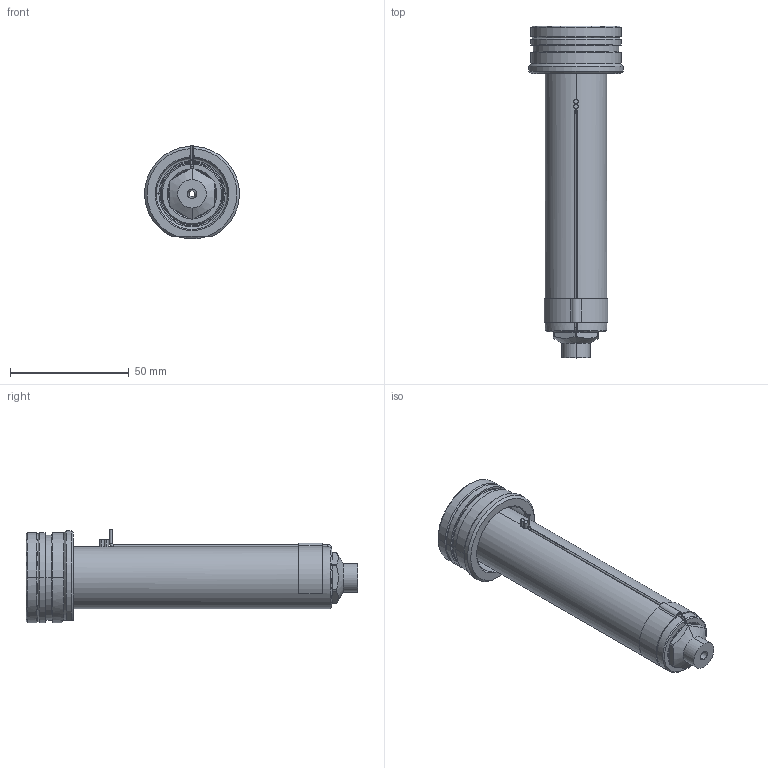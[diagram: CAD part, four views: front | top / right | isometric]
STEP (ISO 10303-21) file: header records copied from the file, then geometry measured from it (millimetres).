
FILE_DESCRIPTION((''),'2;1');
FILE_NAME('EO08_VG-ST_STD_120_SW','2024-02-19T12:42:51',('sundharh'),(''),'CREO PARAMETRIC BY PTC INC, 2023154','CREO PARAMETRIC BY PTC INC, 2023154','');
FILE_SCHEMA(('CONFIG_CONTROL_DESIGN'));
Length unit declared in the file: millimetre
Products named in the file (1): EO08_VG-ST_STD_120_SW
Bounding box: 39.88 x 140 x 39.52 mm (x, y, z)
Volume: 73768.7 mm3; surface area: 20861 mm2
Topology: 1 solids, 1 shells, 174 faces, 438 edges, 269 vertices
Faces by surface type: cylinder 64, plane 44, cone 37, torus 19, bspline 8, sphere 2
Entity records: 6511 total; most frequent: CARTESIAN_POINT 2247, DIRECTION 941, ORIENTED_EDGE 868, EDGE_CURVE 434, AXIS2_PLACEMENT_3D 390, VERTEX_POINT 269, CIRCLE 224, EDGE_LOOP 189
